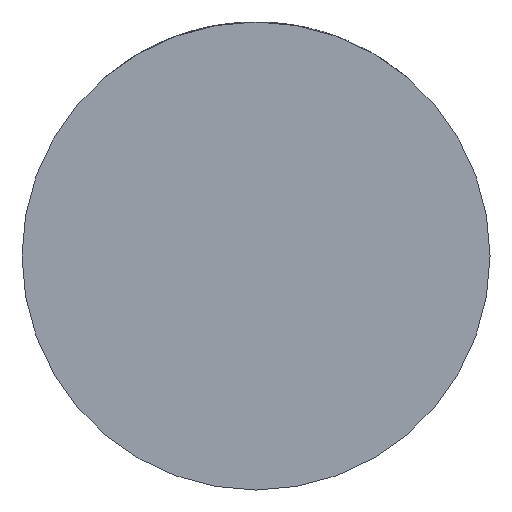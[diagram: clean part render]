
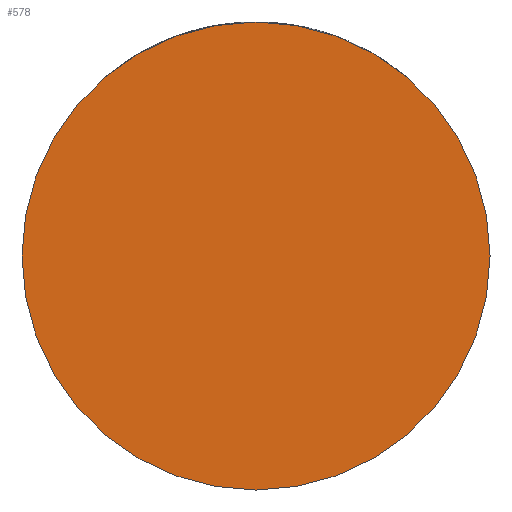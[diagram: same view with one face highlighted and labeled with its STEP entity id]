
A CAD part, front view. The second image highlights one B-rep face of the part: STEP entity #578.
In plain terms, the highlighted planar face has unit normal (0, -1, 0).
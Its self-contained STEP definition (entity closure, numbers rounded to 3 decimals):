
#138 = AXIS2_PLACEMENT_3D ( 'NONE', #2100, #376, #1061 ) ;
#204 = AXIS2_PLACEMENT_3D ( 'NONE', #3970, #1216, #1286 ) ;
#265 = PLANE ( 'NONE',  #204 ) ;
#376 = DIRECTION ( 'NONE',  ( 0., -1., 0. ) ) ;
#578 = ADVANCED_FACE ( 'NONE', ( #3361 ), #265, .T. ) ;
#662 = CIRCLE ( 'NONE', #3115, 32. ) ;
#865 = CIRCLE ( 'NONE', #138, 32. ) ;
#1061 = DIRECTION ( 'NONE',  ( 1., 0., 0. ) ) ;
#1216 = DIRECTION ( 'NONE',  ( 0., -1., 0. ) ) ;
#1286 = DIRECTION ( 'NONE',  ( 1., 0., 0. ) ) ;
#1311 = ORIENTED_EDGE ( 'NONE', *, *, #2300, .T. ) ;
#1413 = EDGE_LOOP ( 'NONE', ( #2807, #1311 ) ) ;
#1563 = VERTEX_POINT ( 'NONE', #3489 ) ;
#1564 = CARTESIAN_POINT ( 'NONE',  ( 0., -27., 0. ) ) ;
#1769 = VERTEX_POINT ( 'NONE', #1888 ) ;
#1888 = CARTESIAN_POINT ( 'NONE',  ( -32., -27., 0. ) ) ;
#2100 = CARTESIAN_POINT ( 'NONE',  ( 0., -27., 0. ) ) ;
#2300 = EDGE_CURVE ( 'NONE', #1563, #1769, #865, .T. ) ;
#2807 = ORIENTED_EDGE ( 'NONE', *, *, #3284, .T. ) ;
#2944 = DIRECTION ( 'NONE',  ( 0., -1., 0. ) ) ;
#3115 = AXIS2_PLACEMENT_3D ( 'NONE', #1564, #2944, #4311 ) ;
#3284 = EDGE_CURVE ( 'NONE', #1769, #1563, #662, .T. ) ;
#3361 = FACE_OUTER_BOUND ( 'NONE', #1413, .T. ) ;
#3489 = CARTESIAN_POINT ( 'NONE',  ( 32., -27., 0. ) ) ;
#3970 = CARTESIAN_POINT ( 'NONE',  ( 0., -27., 0. ) ) ;
#4311 = DIRECTION ( 'NONE',  ( 1., 0., 0. ) ) ;
